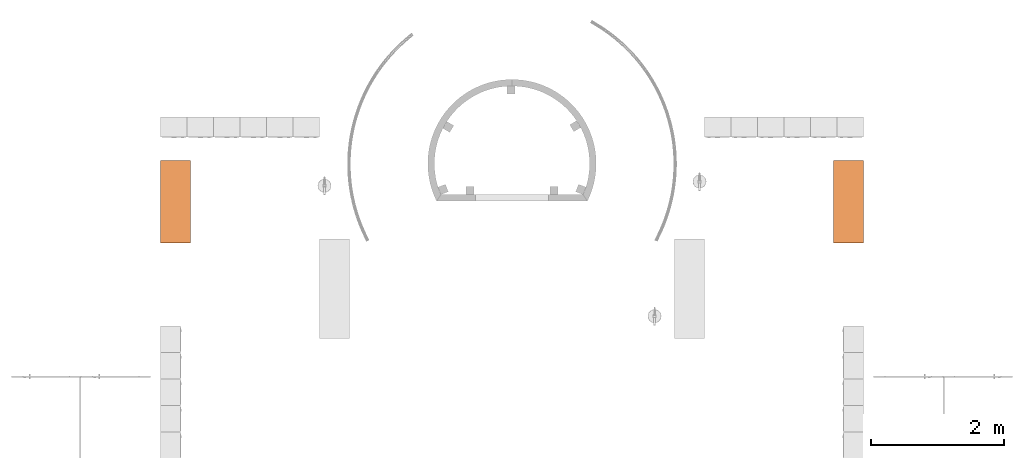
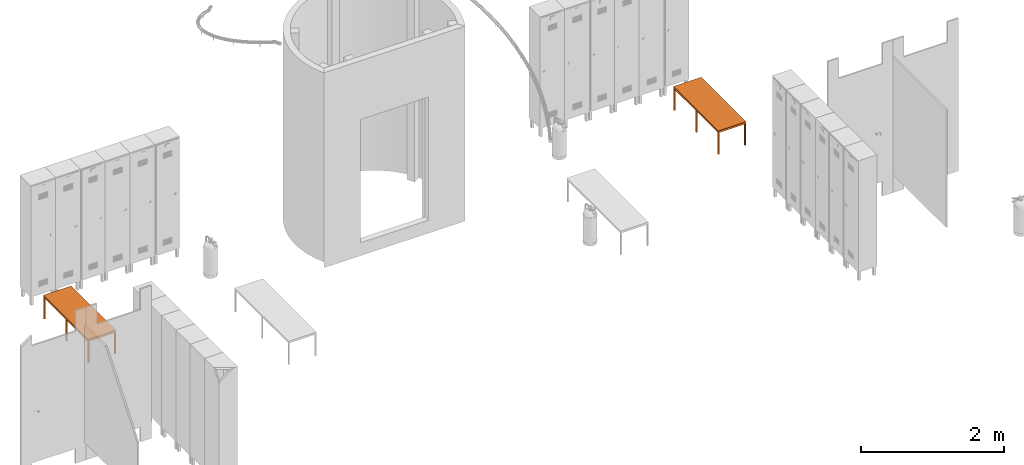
# One storey, part 9 of 9: 2 proxies.
"""IFC4 building model written with IfcOpenShell, lengths in millimetres."""

from ifc_helpers import new_model, entity, si_unit, converted_unit, derived_unit, direction, frame, origin_with_axes, place, context, subcontext, project, spatial, polygons, type_object, element, save


model = new_model("IFC4")

# Units and contexts
model_context = context("Model", 3, precision=0.01, world=origin_with_axes(), true_north=direction((0.0, 1.0)))
body_context = subcontext(model_context, "Body", "Model", "MODEL_VIEW")
ifc_project = project(units=[si_unit("LENGTHUNIT", "METRE", prefix="MILLI"), si_unit("AREAUNIT", "SQUARE_METRE"), si_unit("VOLUMEUNIT", "CUBIC_METRE"), converted_unit("PLANEANGLEUNIT", "DEGREE", entity("IfcPlaneAngleMeasure", 0.0174532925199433), si_unit("PLANEANGLEUNIT", "RADIAN"), dimensions=[0, 0, 0, 0, 0, 0, 0]), converted_unit("TIMEUNIT", "Year", entity("IfcTimeMeasure", 31557600.0), si_unit("TIMEUNIT", "SECOND"), dimensions=[0, 0, 1, 0, 0, 0, 0]), si_unit("MASSUNIT", "GRAM", prefix="KILO"), si_unit("THERMODYNAMICTEMPERATUREUNIT", "DEGREE_CELSIUS"), si_unit("LUMINOUSINTENSITYUNIT", "LUMEN"), si_unit("ENERGYUNIT", "JOULE", prefix="MEGA"), derived_unit("THERMALCONDUCTANCEUNIT", [(si_unit("POWERUNIT", "WATT"), 1), (si_unit("LENGTHUNIT", "METRE"), -1), (si_unit("THERMODYNAMICTEMPERATUREUNIT", "KELVIN"), -1)]), derived_unit("SPECIFICHEATCAPACITYUNIT", [(si_unit("ENERGYUNIT", "JOULE"), 1), (si_unit("MASSUNIT", "GRAM", prefix="KILO"), -1), (si_unit("THERMODYNAMICTEMPERATUREUNIT", "KELVIN"), -1)]), derived_unit("MASSDENSITYUNIT", [(si_unit("MASSUNIT", "GRAM", prefix="KILO"), 1), (si_unit("VOLUMEUNIT", "CUBIC_METRE"), -1)])], contexts=[model_context])

# Site, building, storey
site_placement = place(None, origin_with_axes())
site = spatial("IfcSite", under=ifc_project, at=site_placement, Name="Exteriér", CompositionType="ELEMENT")
building_placement = place(site_placement, origin_with_axes())
building = spatial("IfcBuilding", under=site, at=building_placement, Name="Univerzitní lezecké centrum", CompositionType="ELEMENT")
storey_placement = place(building_placement, frame((0.0, 0.0, 3200.0), z_axis=(0.0, 0.0, 1.0), x_axis=(1.0, 0.0, 0.0)))
storey = spatial("IfcBuildingStorey", under=building, at=storey_placement, Name="2.NP", CompositionType="ELEMENT", Elevation=3200.0)

# Proxies
building_element_proxy_type = type_object("IfcBuildingElementProxyType", Name="Lavice 24", PredefinedType="NOTDEFINED")
proxy_1_placement = place(storey_placement, frame((-2850.351766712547, 3750.000000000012, 0.0), z_axis=(0.0, 0.0, 1.0), x_axis=(0.0, -1.0, 0.0)))
element("IfcBuildingElementProxy", 1, at=proxy_1_placement, inside=storey, type_object=building_element_proxy_type, Name="OV05", PredefinedType="NOTDEFINED", context=body_context, shape_type="Tessellation", body=[
    polygons([(20.0, 0.0, 0.0), (0.0, 0.0, 0.0), (0.0, 20.0, 0.0), (20.0, 20.0, 0.0), (20.0, 0.0, 385.0), (0.0, 0.0, 385.0), (0.0, 20.0, 385.0), (20.0, 20.0, 385.0)], [[[1, 2, 3, 4]], [[2, 1, 5, 6]], [[3, 2, 6, 7]], [[4, 3, 7, 8]], [[1, 4, 8, 5]], [[6, 5, 8, 7]]], closed=True),
    polygons([(20.0, 430.0, 0.0), (0.0, 430.0, 0.0), (0.0, 450.0, 0.0), (20.0, 450.0, 0.0), (20.0, 430.0, 385.0), (0.0, 430.0, 385.0), (0.0, 450.0, 385.0), (20.0, 450.0, 385.0)], [[[1, 2, 3, 4]], [[2, 1, 5, 6]], [[3, 2, 6, 7]], [[4, 3, 7, 8]], [[1, 4, 8, 5]], [[6, 5, 8, 7]]], closed=True),
    polygons([(1250.0, 0.0, 0.0), (1230.0, 0.0, 0.0), (1230.0, 20.0, 0.0), (1250.0, 20.0, 0.0), (1250.0, 0.0, 385.0), (1230.0, 0.0, 385.0), (1230.0, 20.0, 385.0), (1250.0, 20.0, 385.0)], [[[1, 2, 3, 4]], [[2, 1, 5, 6]], [[3, 2, 6, 7]], [[4, 3, 7, 8]], [[1, 4, 8, 5]], [[6, 5, 8, 7]]], closed=True),
    polygons([(1250.0, 430.0, 0.0), (1230.0, 430.0, 0.0), (1230.0, 450.0, 0.0), (1250.0, 450.0, 0.0), (1250.0, 430.0, 385.0), (1230.0, 430.0, 385.0), (1230.0, 450.0, 385.0), (1250.0, 450.0, 385.0)], [[[1, 2, 3, 4]], [[2, 1, 5, 6]], [[3, 2, 6, 7]], [[4, 3, 7, 8]], [[1, 4, 8, 5]], [[6, 5, 8, 7]]], closed=True),
    polygons([(635.0, 0.0, 0.0), (615.0, 0.0, 0.0), (615.0, 20.0, 0.0), (635.0, 20.0, 0.0), (635.0, 0.0, 385.0), (615.0, 0.0, 385.0), (615.0, 20.0, 385.0), (635.0, 20.0, 385.0)], [[[1, 2, 3, 4]], [[2, 1, 5, 6]], [[3, 2, 6, 7]], [[4, 3, 7, 8]], [[1, 4, 8, 5]], [[6, 5, 8, 7]]], closed=True),
    polygons([(635.0, 430.0, 0.0), (615.0, 430.0, 0.0), (615.0, 450.0, 0.0), (635.0, 450.0, 0.0), (635.0, 430.0, 385.0), (615.0, 430.0, 385.0), (615.0, 450.0, 385.0), (635.0, 450.0, 385.0)], [[[1, 2, 3, 4]], [[2, 1, 5, 6]], [[3, 2, 6, 7]], [[4, 3, 7, 8]], [[1, 4, 8, 5]], [[6, 5, 8, 7]]], closed=True),
    polygons([(615.0, 0.0, 365.0000000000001), (20.0, 0.0, 365.0000000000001), (20.0, 20.0, 365.0000000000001), (615.0, 20.0, 365.0000000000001), (615.0, 0.0, 385.0000000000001), (20.0, 0.0, 385.0000000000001), (20.0, 20.0, 385.0000000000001), (615.0, 20.0, 385.0000000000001)], [[[1, 2, 3, 4]], [[2, 1, 5, 6]], [[3, 2, 6, 7]], [[4, 3, 7, 8]], [[1, 4, 8, 5]], [[6, 5, 8, 7]]], closed=True),
    polygons([(1230.0, 0.0, 365.0000000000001), (635.0, 0.0, 365.0000000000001), (635.0, 20.0, 365.0000000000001), (1230.0, 20.0, 365.0000000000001), (1230.0, 0.0, 385.0000000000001), (635.0, 0.0, 385.0000000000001), (635.0, 20.0, 385.0000000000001), (1230.0, 20.0, 385.0000000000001)], [[[1, 2, 3, 4]], [[2, 1, 5, 6]], [[3, 2, 6, 7]], [[4, 3, 7, 8]], [[1, 4, 8, 5]], [[6, 5, 8, 7]]], closed=True),
    polygons([(615.0, 430.0, 365.0000000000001), (20.0, 430.0, 365.0000000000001), (20.0, 450.0, 365.0000000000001), (615.0, 450.0, 365.0000000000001), (615.0, 430.0, 385.0000000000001), (20.0, 430.0, 385.0000000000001), (20.0, 450.0, 385.0000000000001), (615.0, 450.0, 385.0000000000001)], [[[1, 2, 3, 4]], [[2, 1, 5, 6]], [[3, 2, 6, 7]], [[4, 3, 7, 8]], [[1, 4, 8, 5]], [[6, 5, 8, 7]]], closed=True),
    polygons([(1230.0, 430.0, 365.0000000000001), (635.0, 430.0, 365.0000000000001), (635.0, 450.0, 365.0000000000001), (1230.0, 450.0, 365.0000000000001), (1230.0, 430.0, 385.0000000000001), (635.0, 430.0, 385.0000000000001), (635.0, 450.0, 385.0000000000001), (1230.0, 450.0, 385.0000000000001)], [[[1, 2, 3, 4]], [[2, 1, 5, 6]], [[3, 2, 6, 7]], [[4, 3, 7, 8]], [[1, 4, 8, 5]], [[6, 5, 8, 7]]], closed=True),
    polygons([(20.0, 20.0, 365.0000000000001), (0.0, 20.0, 365.0000000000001), (0.0, 430.0000000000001, 365.0000000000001), (20.0, 430.0000000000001, 365.0000000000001), (20.0, 20.0, 385.0000000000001), (0.0, 20.0, 385.0000000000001), (0.0, 430.0000000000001, 385.0000000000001), (20.0, 430.0000000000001, 385.0000000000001)], [[[1, 2, 3, 4]], [[2, 1, 5, 6]], [[3, 2, 6, 7]], [[4, 3, 7, 8]], [[1, 4, 8, 5]], [[6, 5, 8, 7]]], closed=True),
    polygons([(635.0, 20.0, 365.0000000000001), (615.0, 20.0, 365.0000000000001), (615.0, 430.0000000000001, 365.0000000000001), (635.0, 430.0000000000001, 365.0000000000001), (635.0, 20.0, 385.0000000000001), (615.0, 20.0, 385.0000000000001), (615.0, 430.0000000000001, 385.0000000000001), (635.0, 430.0000000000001, 385.0000000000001)], [[[1, 2, 3, 4]], [[2, 1, 5, 6]], [[3, 2, 6, 7]], [[4, 3, 7, 8]], [[1, 4, 8, 5]], [[6, 5, 8, 7]]], closed=True),
    polygons([(1250.0, 20.0, 365.0000000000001), (1230.0, 20.0, 365.0000000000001), (1230.0, 430.0000000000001, 365.0000000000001), (1250.0, 430.0000000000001, 365.0000000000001), (1250.0, 20.0, 385.0000000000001), (1230.0, 20.0, 385.0000000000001), (1230.0, 430.0000000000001, 385.0000000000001), (1250.0, 430.0000000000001, 385.0000000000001)], [[[1, 2, 3, 4]], [[2, 1, 5, 6]], [[3, 2, 6, 7]], [[4, 3, 7, 8]], [[1, 4, 8, 5]], [[6, 5, 8, 7]]], closed=True),
    polygons([(0.0, 0.0, 385.0), (1250.0, 0.0, 385.0), (1250.0, 0.0, 400.0), (0.0, 0.0, 400.0), (0.0, 450.0, 385.0), (1250.0, 450.0, 385.0), (1250.0, 450.0, 400.0), (0.0, 450.0, 400.0)], [[[1, 2, 3, 4]], [[1, 5, 6, 2]], [[2, 6, 7, 3]], [[4, 3, 7, 8]], [[5, 1, 4, 8]], [[6, 5, 8, 7]]], closed=True),
])
proxy_2_placement = place(storey_placement, frame((7750.055064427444, 3749.999999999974, 0.0), z_axis=(0.0, 0.0, 1.0), x_axis=(0.0, 1.0, 0.0)))
element("IfcBuildingElementProxy", 2, at=proxy_2_placement, inside=storey, type_object=building_element_proxy_type, Name="OV05", PredefinedType="NOTDEFINED", context=body_context, shape_type="Tessellation", body=[
    polygons([(-20.0, 0.0, 0.0), (-20.0, 20.0, 0.0), (0.0, 20.0, 0.0), (0.0, 0.0, 0.0), (-20.0, 0.0, 385.0), (-20.0, 20.0, 385.0), (0.0, 20.0, 385.0), (0.0, 0.0, 385.0)], [[[1, 2, 3, 4]], [[1, 5, 6, 2]], [[2, 6, 7, 3]], [[3, 7, 8, 4]], [[4, 8, 5, 1]], [[8, 7, 6, 5]]], closed=True),
    polygons([(-20.0, 430.0, 0.0), (-20.0, 450.0, 0.0), (0.0, 450.0, 0.0), (0.0, 430.0, 0.0), (-20.0, 430.0, 385.0), (-20.0, 450.0, 385.0), (0.0, 450.0, 385.0), (0.0, 430.0, 385.0)], [[[1, 2, 3, 4]], [[1, 5, 6, 2]], [[2, 6, 7, 3]], [[3, 7, 8, 4]], [[4, 8, 5, 1]], [[8, 7, 6, 5]]], closed=True),
    polygons([(-1250.0, 0.0, 0.0), (-1250.0, 20.0, 0.0), (-1230.0, 20.0, 0.0), (-1230.0, 0.0, 0.0), (-1250.0, 0.0, 385.0), (-1250.0, 20.0, 385.0), (-1230.0, 20.0, 385.0), (-1230.0, 0.0, 385.0)], [[[1, 2, 3, 4]], [[1, 5, 6, 2]], [[2, 6, 7, 3]], [[3, 7, 8, 4]], [[4, 8, 5, 1]], [[8, 7, 6, 5]]], closed=True),
    polygons([(-1250.0, 430.0, 0.0), (-1250.0, 450.0, 0.0), (-1230.0, 450.0, 0.0), (-1230.0, 430.0, 0.0), (-1250.0, 430.0, 385.0), (-1250.0, 450.0, 385.0), (-1230.0, 450.0, 385.0), (-1230.0, 430.0, 385.0)], [[[1, 2, 3, 4]], [[1, 5, 6, 2]], [[2, 6, 7, 3]], [[3, 7, 8, 4]], [[4, 8, 5, 1]], [[8, 7, 6, 5]]], closed=True),
    polygons([(-635.0, 0.0, 0.0), (-635.0, 20.0, 0.0), (-615.0, 20.0, 0.0), (-615.0, 0.0, 0.0), (-635.0, 0.0, 385.0), (-635.0, 20.0, 385.0), (-615.0, 20.0, 385.0), (-615.0, 0.0, 385.0)], [[[1, 2, 3, 4]], [[1, 5, 6, 2]], [[2, 6, 7, 3]], [[3, 7, 8, 4]], [[4, 8, 5, 1]], [[8, 7, 6, 5]]], closed=True),
    polygons([(-635.0, 430.0, 0.0), (-635.0, 450.0, 0.0), (-615.0, 450.0, 0.0), (-615.0, 430.0, 0.0), (-635.0, 430.0, 385.0), (-635.0, 450.0, 385.0), (-615.0, 450.0, 385.0), (-615.0, 430.0, 385.0)], [[[1, 2, 3, 4]], [[1, 5, 6, 2]], [[2, 6, 7, 3]], [[3, 7, 8, 4]], [[4, 8, 5, 1]], [[8, 7, 6, 5]]], closed=True),
    polygons([(-615.0, 0.0, 365.0000000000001), (-615.0, 20.0, 365.0000000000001), (-20.0, 20.0, 365.0000000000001), (-20.0, 0.0, 365.0000000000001), (-615.0, 0.0, 385.0000000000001), (-615.0, 20.0, 385.0000000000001), (-20.0, 20.0, 385.0000000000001), (-20.0, 0.0, 385.0000000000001)], [[[1, 2, 3, 4]], [[1, 5, 6, 2]], [[2, 6, 7, 3]], [[3, 7, 8, 4]], [[4, 8, 5, 1]], [[8, 7, 6, 5]]], closed=True),
    polygons([(-1230.0, 0.0, 365.0000000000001), (-1230.0, 20.0, 365.0000000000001), (-635.0, 20.0, 365.0000000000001), (-635.0, 0.0, 365.0000000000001), (-1230.0, 0.0, 385.0000000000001), (-1230.0, 20.0, 385.0000000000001), (-635.0, 20.0, 385.0000000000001), (-635.0, 0.0, 385.0000000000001)], [[[1, 2, 3, 4]], [[1, 5, 6, 2]], [[2, 6, 7, 3]], [[3, 7, 8, 4]], [[4, 8, 5, 1]], [[8, 7, 6, 5]]], closed=True),
    polygons([(-615.0, 430.0, 365.0000000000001), (-615.0, 450.0, 365.0000000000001), (-20.0, 450.0, 365.0000000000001), (-20.0, 430.0, 365.0000000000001), (-615.0, 430.0, 385.0000000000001), (-615.0, 450.0, 385.0000000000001), (-20.0, 450.0, 385.0000000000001), (-20.0, 430.0, 385.0000000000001)], [[[1, 2, 3, 4]], [[1, 5, 6, 2]], [[2, 6, 7, 3]], [[3, 7, 8, 4]], [[4, 8, 5, 1]], [[8, 7, 6, 5]]], closed=True),
    polygons([(-1230.0, 430.0, 365.0000000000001), (-1230.0, 450.0, 365.0000000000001), (-635.0, 450.0, 365.0000000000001), (-635.0, 430.0, 365.0000000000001), (-1230.0, 430.0, 385.0000000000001), (-1230.0, 450.0, 385.0000000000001), (-635.0, 450.0, 385.0000000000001), (-635.0, 430.0, 385.0000000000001)], [[[1, 2, 3, 4]], [[1, 5, 6, 2]], [[2, 6, 7, 3]], [[3, 7, 8, 4]], [[4, 8, 5, 1]], [[8, 7, 6, 5]]], closed=True),
    polygons([(-20.0, 20.0, 365.0000000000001), (-20.0, 430.0000000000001, 365.0000000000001), (0.0, 430.0000000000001, 365.0000000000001), (0.0, 20.0, 365.0000000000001), (-20.0, 20.0, 385.0000000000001), (-20.0, 430.0000000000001, 385.0000000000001), (0.0, 430.0000000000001, 385.0000000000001), (0.0, 20.0, 385.0000000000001)], [[[1, 2, 3, 4]], [[1, 5, 6, 2]], [[2, 6, 7, 3]], [[3, 7, 8, 4]], [[4, 8, 5, 1]], [[8, 7, 6, 5]]], closed=True),
    polygons([(-635.0, 20.0, 365.0000000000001), (-635.0, 430.0000000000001, 365.0000000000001), (-615.0, 430.0000000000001, 365.0000000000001), (-615.0, 20.0, 365.0000000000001), (-635.0, 20.0, 385.0000000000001), (-635.0, 430.0000000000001, 385.0000000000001), (-615.0, 430.0000000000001, 385.0000000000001), (-615.0, 20.0, 385.0000000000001)], [[[1, 2, 3, 4]], [[1, 5, 6, 2]], [[2, 6, 7, 3]], [[3, 7, 8, 4]], [[4, 8, 5, 1]], [[8, 7, 6, 5]]], closed=True),
    polygons([(-1250.0, 20.0, 365.0000000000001), (-1250.0, 430.0000000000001, 365.0000000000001), (-1230.0, 430.0000000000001, 365.0000000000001), (-1230.0, 20.0, 365.0000000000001), (-1250.0, 20.0, 385.0000000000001), (-1250.0, 430.0000000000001, 385.0000000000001), (-1230.0, 430.0000000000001, 385.0000000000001), (-1230.0, 20.0, 385.0000000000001)], [[[1, 2, 3, 4]], [[1, 5, 6, 2]], [[2, 6, 7, 3]], [[3, 7, 8, 4]], [[4, 8, 5, 1]], [[8, 7, 6, 5]]], closed=True),
    polygons([(0.0, 0.0, 385.0), (0.0, 0.0, 400.0), (-1250.0, 0.0, 400.0), (-1250.0, 0.0, 385.0), (0.0, 450.0, 385.0), (0.0, 450.0, 400.0), (-1250.0, 450.0, 400.0), (-1250.0, 450.0, 385.0)], [[[1, 2, 3, 4]], [[5, 6, 2, 1]], [[2, 6, 7, 3]], [[4, 3, 7, 8]], [[1, 4, 8, 5]], [[8, 7, 6, 5]]], closed=True),
])

save(model, "model.ifc")
